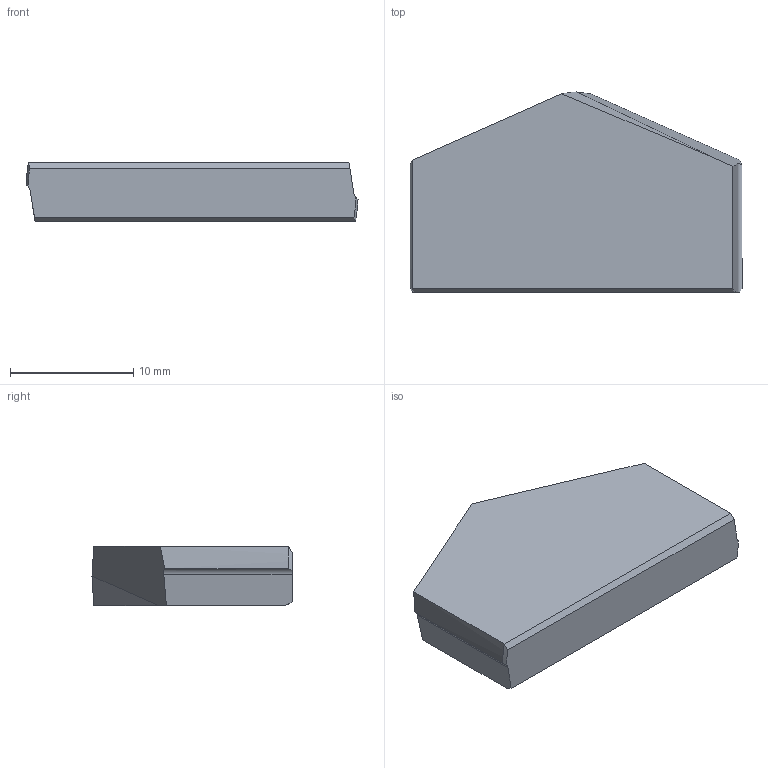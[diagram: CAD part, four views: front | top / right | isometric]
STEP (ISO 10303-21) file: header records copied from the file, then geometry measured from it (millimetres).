
FILE_DESCRIPTION (( 'STEP AP214' ), '1' );
FILE_NAME ('1.1-16.STEP', '2022-06-24T05:47:16', ( '' ), ( '' ), 'SwSTEP 2.0', 'SolidWorks 2018', '' );
FILE_SCHEMA (( 'AUTOMOTIVE_DESIGN' ));
Length unit declared in the file: millimetre
Products named in the file (1): 1.1-16
Bounding box: 26.96 x 16.25 x 4.8 mm (x, y, z)
Volume: 1674.7 mm3; surface area: 1049 mm2
Topology: 1 solids, 1 shells, 17 faces, 44 edges, 29 vertices
Faces by surface type: plane 11, cylinder 4, cone 2
Entity records: 554 total; most frequent: CARTESIAN_POINT 121, ORIENTED_EDGE 88, DIRECTION 76, EDGE_CURVE 44, VERTEX_POINT 29, LINE 28, VECTOR 28, AXIS2_PLACEMENT_3D 24
